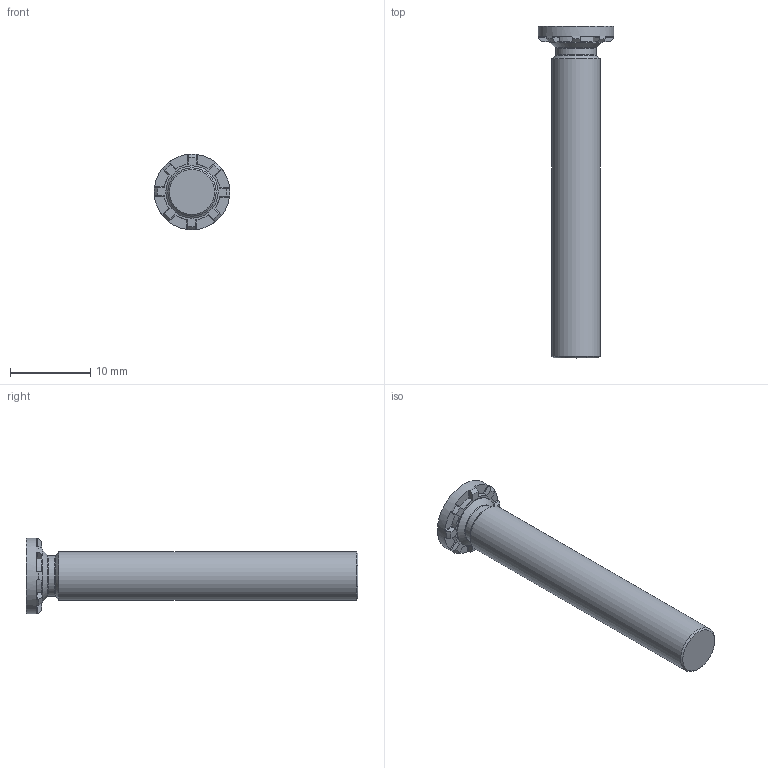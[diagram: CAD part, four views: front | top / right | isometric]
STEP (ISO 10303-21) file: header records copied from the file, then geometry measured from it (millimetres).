
FILE_DESCRIPTION(/* description */ (''),/* implementation_level */ '2;1');
FILE_NAME(/* name */ 'C:\Users\keval.kumar\Desktop\Fastit\Clinch Screw- HFH Range\M6\Clinch Screw-HFH Range_M6x40.stp',/* time_stamp */ '2024-03-12T15:31:11+05:00',/* author */ ('keval.kumar'),/* organization */ (''),/* preprocessor_version */ 'ST-DEVELOPER v18.1',/* originating_system */ 'Autodesk Inventor 2022',/* authorisation */ '');
FILE_SCHEMA (('AUTOMOTIVE_DESIGN { 1 0 10303 214 3 1 1 }'));
Length unit declared in the file: millimetre
Products named in the file (1): Clinch Screw-HFH Range_M6x40
Bounding box: 9.4 x 41.27 x 9.4 mm (x, y, z)
Volume: 1221.2 mm3; surface area: 940.7 mm2
Topology: 1 solids, 1 shells, 68 faces, 193 edges, 128 vertices
Faces by surface type: plane 43, cylinder 12, cone 11, torus 2
Full cylindrical faces by diameter (mm): 5 x1, 6 x1, 6.5 x1, 9.4 x1
Entity records: 2278 total; most frequent: CARTESIAN_POINT 422, DIRECTION 405, ORIENTED_EDGE 386, EDGE_CURVE 193, AXIS2_PLACEMENT_3D 159, VERTEX_POINT 128, LINE 87, VECTOR 87
